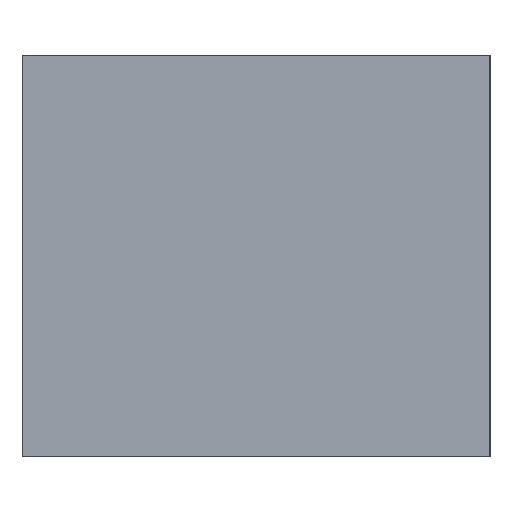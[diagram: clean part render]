
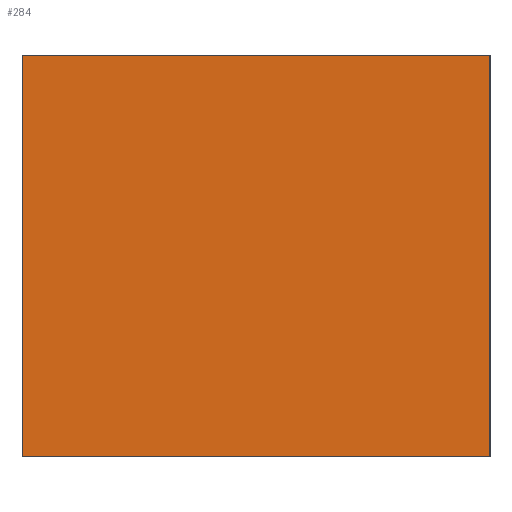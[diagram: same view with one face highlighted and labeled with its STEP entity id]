
A CAD part, left-side view. The second image highlights one B-rep face of the part: STEP entity #284.
In plain terms, the highlighted planar face has unit normal (-1, 0, 0).
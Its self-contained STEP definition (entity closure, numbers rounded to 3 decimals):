
#21 = EDGE_CURVE('',#22,#24,#26,.T.);
#22 = VERTEX_POINT('',#23);
#23 = CARTESIAN_POINT('',(-54.,-104.5,187.));
#24 = VERTEX_POINT('',#25);
#25 = CARTESIAN_POINT('',(-54.,-104.5,199.));
#26 = SURFACE_CURVE('',#27,(#31,#43),.PCURVE_S1.);
#27 = LINE('',#28,#29);
#28 = CARTESIAN_POINT('',(-54.,-104.5,187.));
#29 = VECTOR('',#30,1.);
#30 = DIRECTION('',(0.,0.,1.));
#31 = PCURVE('',#32,#37);
#32 = PLANE('',#33);
#33 = AXIS2_PLACEMENT_3D('',#34,#35,#36);
#34 = CARTESIAN_POINT('',(-54.,-104.5,187.));
#35 = DIRECTION('',(0.,1.,0.));
#36 = DIRECTION('',(1.,0.,0.));
#37 = DEFINITIONAL_REPRESENTATION('',(#38),#42);
#38 = LINE('',#39,#40);
#39 = CARTESIAN_POINT('',(0.,0.));
#40 = VECTOR('',#41,1.);
#41 = DIRECTION('',(0.,-1.));
#42 = ( GEOMETRIC_REPRESENTATION_CONTEXT(2) 
PARAMETRIC_REPRESENTATION_CONTEXT() REPRESENTATION_CONTEXT('2D SPACE',''
  ) );
#43 = PCURVE('',#44,#49);
#44 = PLANE('',#45);
#45 = AXIS2_PLACEMENT_3D('',#46,#47,#48);
#46 = CARTESIAN_POINT('',(-54.,-90.5,187.));
#47 = DIRECTION('',(1.,0.,-0.));
#48 = DIRECTION('',(0.,-1.,0.));
#49 = DEFINITIONAL_REPRESENTATION('',(#50),#54);
#50 = LINE('',#51,#52);
#51 = CARTESIAN_POINT('',(14.,0.));
#52 = VECTOR('',#53,1.);
#53 = DIRECTION('',(0.,-1.));
#54 = ( GEOMETRIC_REPRESENTATION_CONTEXT(2) 
PARAMETRIC_REPRESENTATION_CONTEXT() REPRESENTATION_CONTEXT('2D SPACE',''
  ) );
#72 = PLANE('',#73);
#73 = AXIS2_PLACEMENT_3D('',#74,#75,#76);
#74 = CARTESIAN_POINT('',(-40.,-97.5,199.));
#75 = DIRECTION('',(0.,0.,1.));
#76 = DIRECTION('',(1.,0.,-0.));
#126 = PLANE('',#127);
#127 = AXIS2_PLACEMENT_3D('',#128,#129,#130);
#128 = CARTESIAN_POINT('',(-40.,-97.5,187.));
#129 = DIRECTION('',(0.,0.,1.));
#130 = DIRECTION('',(1.,0.,-0.));
#181 = PLANE('',#182);
#182 = AXIS2_PLACEMENT_3D('',#183,#184,#185);
#183 = CARTESIAN_POINT('',(-26.,-90.5,187.));
#184 = DIRECTION('',(0.,-1.,0.));
#185 = DIRECTION('',(-1.,0.,0.));
#219 = VERTEX_POINT('',#220);
#220 = CARTESIAN_POINT('',(-54.,-90.5,199.));
#241 = EDGE_CURVE('',#242,#219,#244,.T.);
#242 = VERTEX_POINT('',#243);
#243 = CARTESIAN_POINT('',(-54.,-90.5,187.));
#244 = SURFACE_CURVE('',#245,(#249,#256),.PCURVE_S1.);
#245 = LINE('',#246,#247);
#246 = CARTESIAN_POINT('',(-54.,-90.5,187.));
#247 = VECTOR('',#248,1.);
#248 = DIRECTION('',(0.,0.,1.));
#249 = PCURVE('',#181,#250);
#250 = DEFINITIONAL_REPRESENTATION('',(#251),#255);
#251 = LINE('',#252,#253);
#252 = CARTESIAN_POINT('',(28.,0.));
#253 = VECTOR('',#254,1.);
#254 = DIRECTION('',(0.,-1.));
#255 = ( GEOMETRIC_REPRESENTATION_CONTEXT(2) 
PARAMETRIC_REPRESENTATION_CONTEXT() REPRESENTATION_CONTEXT('2D SPACE',''
  ) );
#256 = PCURVE('',#44,#257);
#257 = DEFINITIONAL_REPRESENTATION('',(#258),#262);
#258 = LINE('',#259,#260);
#259 = CARTESIAN_POINT('',(0.,0.));
#260 = VECTOR('',#261,1.);
#261 = DIRECTION('',(0.,-1.));
#262 = ( GEOMETRIC_REPRESENTATION_CONTEXT(2) 
PARAMETRIC_REPRESENTATION_CONTEXT() REPRESENTATION_CONTEXT('2D SPACE',''
  ) );
#284 = ADVANCED_FACE('',(#285),#44,.F.);
#285 = FACE_BOUND('',#286,.F.);
#286 = EDGE_LOOP('',(#287,#288,#309,#310));
#287 = ORIENTED_EDGE('',*,*,#241,.T.);
#288 = ORIENTED_EDGE('',*,*,#289,.T.);
#289 = EDGE_CURVE('',#219,#24,#290,.T.);
#290 = SURFACE_CURVE('',#291,(#295,#302),.PCURVE_S1.);
#291 = LINE('',#292,#293);
#292 = CARTESIAN_POINT('',(-54.,-90.5,199.));
#293 = VECTOR('',#294,1.);
#294 = DIRECTION('',(0.,-1.,0.));
#295 = PCURVE('',#44,#296);
#296 = DEFINITIONAL_REPRESENTATION('',(#297),#301);
#297 = LINE('',#298,#299);
#298 = CARTESIAN_POINT('',(0.,-12.));
#299 = VECTOR('',#300,1.);
#300 = DIRECTION('',(1.,0.));
#301 = ( GEOMETRIC_REPRESENTATION_CONTEXT(2) 
PARAMETRIC_REPRESENTATION_CONTEXT() REPRESENTATION_CONTEXT('2D SPACE',''
  ) );
#302 = PCURVE('',#72,#303);
#303 = DEFINITIONAL_REPRESENTATION('',(#304),#308);
#304 = LINE('',#305,#306);
#305 = CARTESIAN_POINT('',(-14.,7.));
#306 = VECTOR('',#307,1.);
#307 = DIRECTION('',(0.,-1.));
#308 = ( GEOMETRIC_REPRESENTATION_CONTEXT(2) 
PARAMETRIC_REPRESENTATION_CONTEXT() REPRESENTATION_CONTEXT('2D SPACE',''
  ) );
#309 = ORIENTED_EDGE('',*,*,#21,.F.);
#310 = ORIENTED_EDGE('',*,*,#311,.F.);
#311 = EDGE_CURVE('',#242,#22,#312,.T.);
#312 = SURFACE_CURVE('',#313,(#317,#324),.PCURVE_S1.);
#313 = LINE('',#314,#315);
#314 = CARTESIAN_POINT('',(-54.,-90.5,187.));
#315 = VECTOR('',#316,1.);
#316 = DIRECTION('',(0.,-1.,0.));
#317 = PCURVE('',#44,#318);
#318 = DEFINITIONAL_REPRESENTATION('',(#319),#323);
#319 = LINE('',#320,#321);
#320 = CARTESIAN_POINT('',(0.,0.));
#321 = VECTOR('',#322,1.);
#322 = DIRECTION('',(1.,0.));
#323 = ( GEOMETRIC_REPRESENTATION_CONTEXT(2) 
PARAMETRIC_REPRESENTATION_CONTEXT() REPRESENTATION_CONTEXT('2D SPACE',''
  ) );
#324 = PCURVE('',#126,#325);
#325 = DEFINITIONAL_REPRESENTATION('',(#326),#330);
#326 = LINE('',#327,#328);
#327 = CARTESIAN_POINT('',(-14.,7.));
#328 = VECTOR('',#329,1.);
#329 = DIRECTION('',(0.,-1.));
#330 = ( GEOMETRIC_REPRESENTATION_CONTEXT(2) 
PARAMETRIC_REPRESENTATION_CONTEXT() REPRESENTATION_CONTEXT('2D SPACE',''
  ) );
